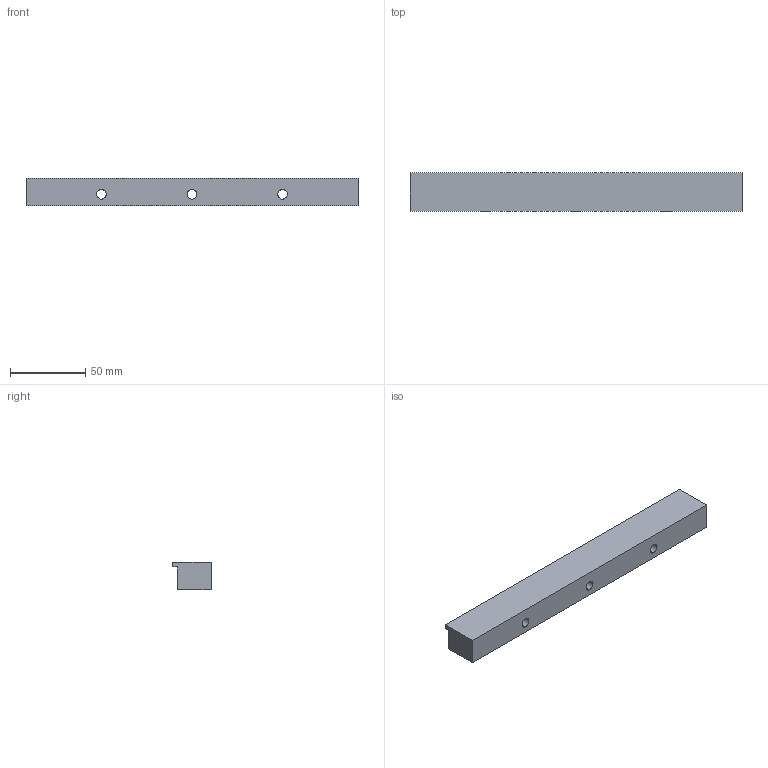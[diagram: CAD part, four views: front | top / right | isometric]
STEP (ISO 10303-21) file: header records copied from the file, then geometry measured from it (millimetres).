
FILE_DESCRIPTION(('CATIA V5 STEP Exchange'),'2;1');
FILE_NAME('D:\姚明阳\1、工装图纸\VDC阀插管工装治具\VDC阀插管工装治具\GZ30.05_V2.stp','2024-11-22T11:59:57+00:00',('none'),('none'),'CATIA Version 5 Release 21 GA (IN-10)','CATIA V5 STEP AP214','none');
FILE_SCHEMA(('AUTOMOTIVE_DESIGN { 1 0 10303 214 1 1 1 1 }'));
Length unit declared in the file: millimetre
Products named in the file (1): 导轨垫块1
Bounding box: 220 x 25.5 x 18 mm (x, y, z)
Volume: 86255 mm3; surface area: 22126.4 mm2
Topology: 1 solids, 1 shells, 39 faces, 94 edges, 56 vertices
Faces by surface type: cylinder 20, plane 11, cone 8
Entity records: 1706 total; most frequent: CARTESIAN_POINT 577, ORIENTED_EDGE 172, DIRECTION 145, EDGE_CURVE 86, AXIS2_PLACEMENT_3D 61, VERTEX_POINT 56, EDGE_LOOP 52, VECTOR 46
